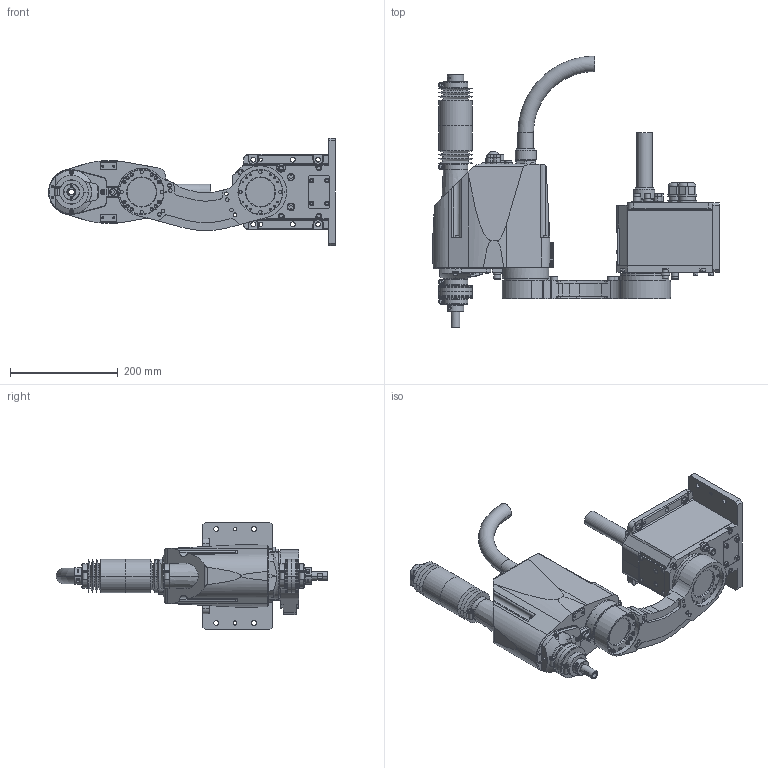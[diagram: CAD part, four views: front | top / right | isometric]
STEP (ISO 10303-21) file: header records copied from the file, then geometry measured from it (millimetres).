
FILE_DESCRIPTION( ( '' ), '1' );
FILE_NAME( '//expscmdclustefs.cadenas.external/client_exchange/iodir/jobs/output/wkb51512762_no0/STEP/G3_351CM_R_2_14b.stp', '2012-11-22T15:42:02', ( '' ), ( '' ), ' ', ' ', ' ' );
FILE_SCHEMA( ( 'automotive_design' ) );
Length unit declared in the file: millimetre
Products named in the file (8): 1; 2; 3; 4; 5; 6; 7; 8
Bounding box: 531.5 x 504 x 200 mm (x, y, z)
Volume: 8116213.3 mm3; surface area: 673224.5 mm2
Topology: 8 solids, 8 shells, 2066 faces, 5058 edges, 3250 vertices
Faces by surface type: plane 967, cylinder 743, cone 239, torus 92, sphere 25
Entity records: 121204 total; most frequent: CARTESIAN_POINT 12790, DIRECTION 11052, STYLED_ITEM 10350, PRESENTATION_STYLE_ASSIGNMENT 10350, COLOUR_RGB 10350, ORIENTED_EDGE 10052, EDGE_CURVE 5026, CURVE_STYLE 5026
